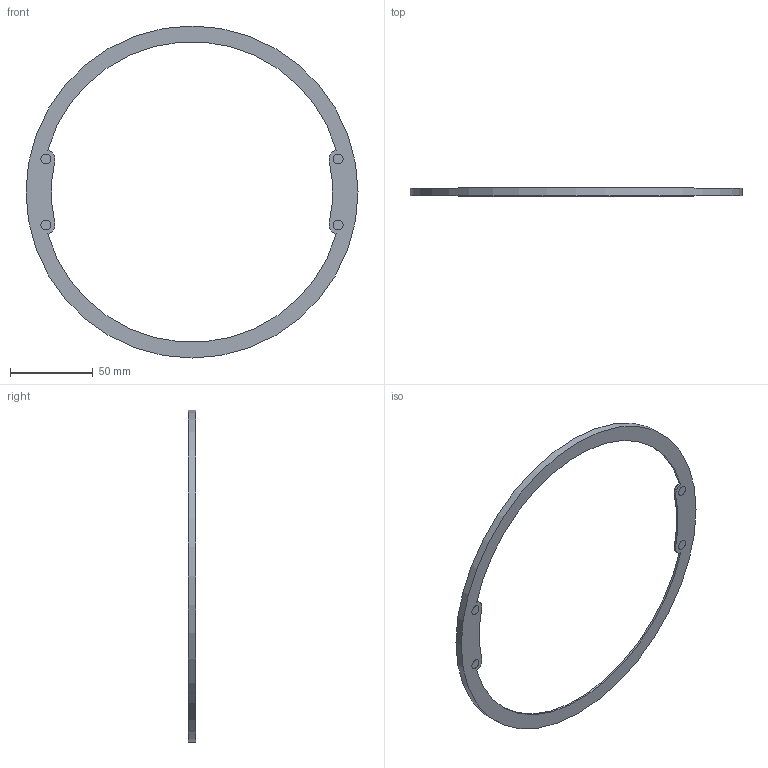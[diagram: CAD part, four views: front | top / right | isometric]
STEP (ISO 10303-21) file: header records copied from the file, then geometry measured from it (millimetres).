
FILE_DESCRIPTION(/* description */ (''),/* implementation_level */ '2;1');
FILE_NAME(/* name */ '/Users/jamko/Dropbox/_3D Printing Stuff/Bambu Lab/Bambu AMS Cardboard Spool Adapter.step',/* time_stamp */ '2022-10-01T17:20:30-04:00',/* author */ (''),/* organization */ (''),/* preprocessor_version */ 'ST-DEVELOPER v19',/* originating_system */ 'Autodesk Translation Framework v11.7.0.108',/* authorisation */ '');
FILE_SCHEMA (('AUTOMOTIVE_DESIGN { 1 0 10303 214 3 1 1 }'));
Length unit declared in the file: millimetre
Products named in the file (1): Bambu AMS Cardboard Spool Adapter
Bounding box: 201 x 4.6 x 201 mm (x, y, z)
Volume: 9667.3 mm3; surface area: 18583.5 mm2
Topology: 5 solids, 5 shells, 29 faces, 54 edges, 36 vertices
Faces by surface type: cylinder 14, plane 11, cone 4
Full cylindrical faces by diameter (mm): 6 x4, 199.2 x1, 201 x1
Entity records: 793 total; most frequent: DIRECTION 150, CARTESIAN_POINT 120, ORIENTED_EDGE 108, AXIS2_PLACEMENT_3D 66, EDGE_CURVE 54, EDGE_LOOP 40, CIRCLE 36, VERTEX_POINT 36
